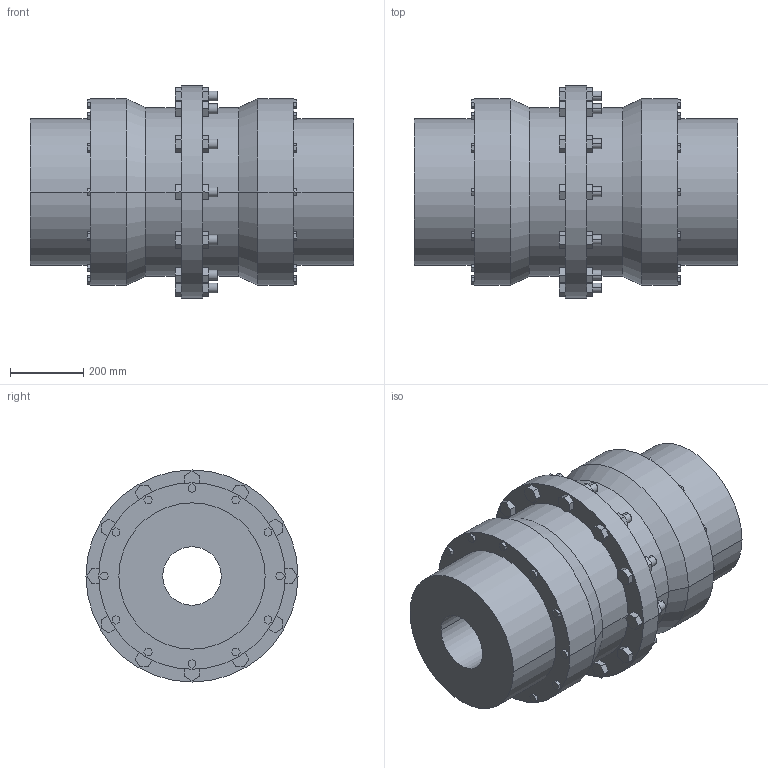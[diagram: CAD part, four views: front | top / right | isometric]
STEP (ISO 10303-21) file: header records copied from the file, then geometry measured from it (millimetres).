
FILE_DESCRIPTION((''),'2;1');
FILE_NAME('A19716200-0_ASM','2019-05-23T',('AB_Roschiwal'),('RENK AG'),'PRO/ENGINEER BY PARAMETRIC TECHNOLOGY CORPORATION, 2015440','PRO/ENGINEER BY PARAMETRIC TECHNOLOGY CORPORATION, 2015440','');
FILE_SCHEMA(('CONFIG_CONTROL_DESIGN'));
Length unit declared in the file: millimetre
Products named in the file (3): SBK250_GEHAEUSE; SBK250_NABE; A19716200-0_ASM
Assembly tree (3 placements, depth 2):
  A19716200-0_ASM
    SBK250_GEHAEUSE
    SBK250_NABE  x2
Bounding box: 884 x 580 x 580 mm (x, y, z)
Volume: 98063526.1 mm3; surface area: 3594954.9 mm2
Topology: 3 solids, 3 shells, 422 faces, 1036 edges, 688 vertices
Faces by surface type: plane 362, cylinder 56, cone 4
Entity records: 12052 total; most frequent: CARTESIAN_POINT 2100, ORIENTED_EDGE 2024, DIRECTION 1940, EDGE_CURVE 1012, VECTOR 916, LINE 916, VERTEX_POINT 672, AXIS2_PLACEMENT_3D 512
